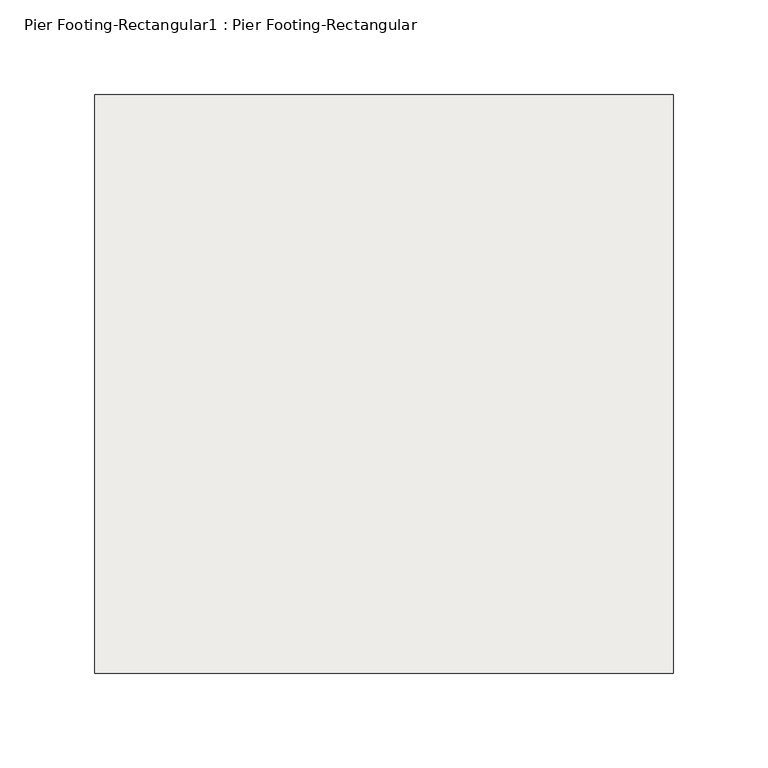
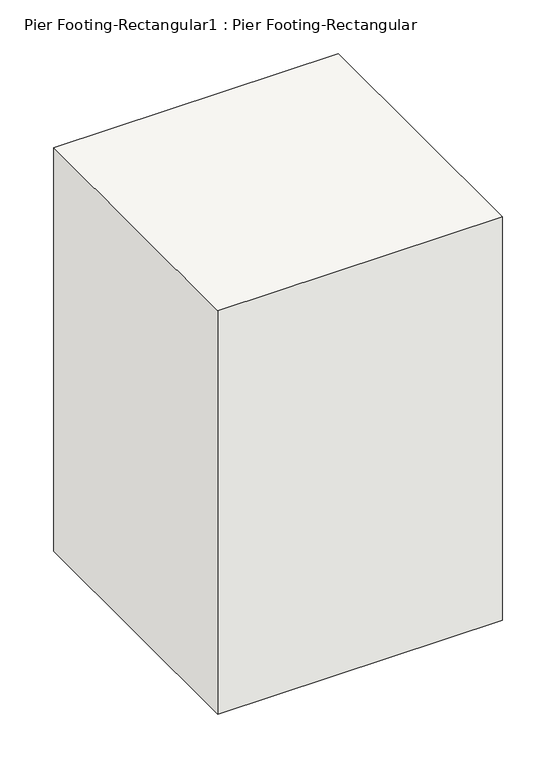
"""IFC4 building model written with IfcOpenShell, lengths in millimetres: slab geometry, Pier Footing-Rectangular1 : Pier Footing-Rectangular."""

from ifc_helpers import new_model, si_unit, origin, place, context, project, spatial, faceted_brep, source, transform, mapped, element, save


def pier_footing_rectangular1_pier_footing_rectangular_225fa32e(model_context):
    return source(origin(), model_context, "Body", "Brep", [
        faceted_brep([(551.5321363, -2137.6904463, -660.4), (856.3321363, -2137.6904463, -660.4), (856.3321363, -2442.4904463, -660.4), (551.5321363, -2442.4904463, -660.4), (551.5321363, -2137.6904463, -203.2), (551.5321363, -2442.4904463, -203.2), (856.3321363, -2442.4904463, -203.2), (856.3321363, -2137.6904463, -203.2), (551.5321363, -2137.6904463, -558.8), (551.5321363, -2442.4904463, -558.8), (856.3321363, -2442.4904463, -558.8), (856.3321363, -2137.6904463, -558.8)], [[[0, 1, 2, 3]], [[4, 5, 6, 7]], [[5, 4, 8, 0, 3, 9]], [[6, 5, 9, 3, 2, 10]], [[7, 6, 10, 2, 1, 11]], [[4, 7, 11, 1, 0, 8]]]),
    ])


if __name__ == "__main__":
    model = new_model("IFC4")
    model_context = context("Model", 3, world=origin())
    ifc_project = project(units=[si_unit("LENGTHUNIT", "METRE", prefix="MILLI")], contexts=[model_context])
    site = spatial("IfcSite", under=ifc_project)
    building = spatial("IfcBuilding", under=site)
    placement = place(None, origin())
    pier_footing_rectangular1_pier_footing_rectangular_shape = pier_footing_rectangular1_pier_footing_rectangular_225fa32e(model_context)
    element("IfcSlab", 1, ObjectType="Pier Footing-Rectangular1 : Pier Footing-Rectangular", at=placement, inside=building, context=model_context, shape_type="MappedRepresentation", body=[
        mapped(pier_footing_rectangular1_pier_footing_rectangular_shape, transform((0.0, 0.0, 0.0), x_axis=(1.0, 0.0, 0.0), y_axis=(0.0, 1.0, 0.0), z_axis=(0.0, 0.0, 1.0))),
    ])
    save(model, "model.ifc")
